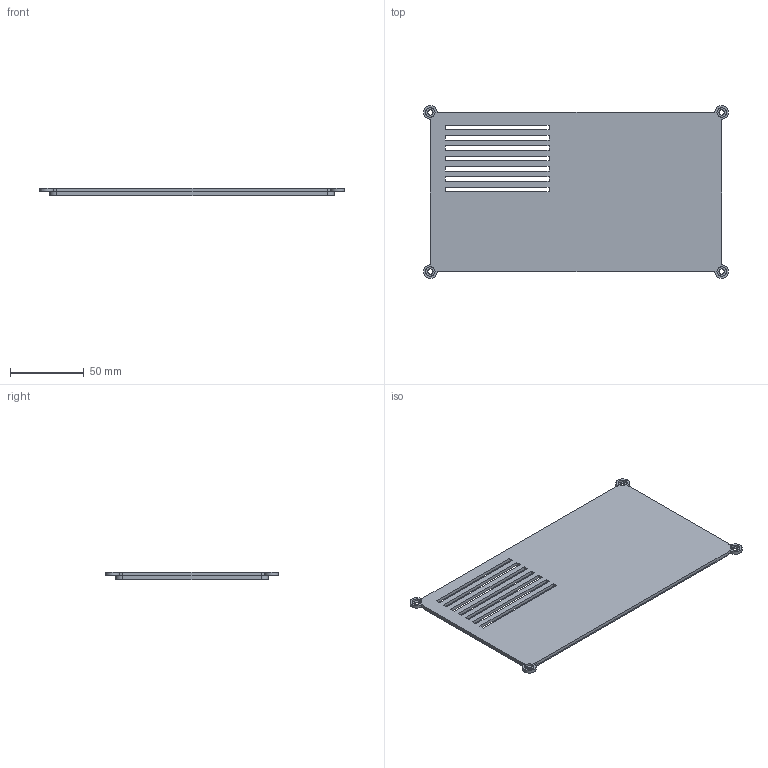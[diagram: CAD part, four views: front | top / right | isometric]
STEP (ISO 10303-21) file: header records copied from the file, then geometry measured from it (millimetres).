
FILE_DESCRIPTION(('Open CASCADE Model'),'2;1');
FILE_NAME('Open CASCADE Shape Model','2026-11-19T06:41:45',('Author'),( 'Open CASCADE'),'Open CASCADE STEP processor 8.0','Open CASCADE 8.0' ,'Unknown');
FILE_SCHEMA(('AUTOMOTIVE_DESIGN { 1 0 10303 214 1 1 1 1 }'));
Length unit declared in the file: millimetre
Products named in the file (1): Open CASCADE STEP translator 8.0 34
Bounding box: 206.67 x 117.07 x 5.2 mm (x, y, z)
Volume: 46805.2 mm3; surface area: 47194 mm2
Topology: 1 solids, 1 shells, 76 faces, 204 edges, 136 vertices
Faces by surface type: plane 48, cylinder 28
Full cylindrical faces by diameter (mm): 3.55 x4, 6.35 x4
Entity records: 4992 total; most frequent: CARTESIAN_POINT 1049, DIRECTION 668, ORIENTED_EDGE 408, PCURVE 408, DEFINITIONAL_REPRESENTATION 408, LINE 360, VECTOR 360, EDGE_CURVE 204
